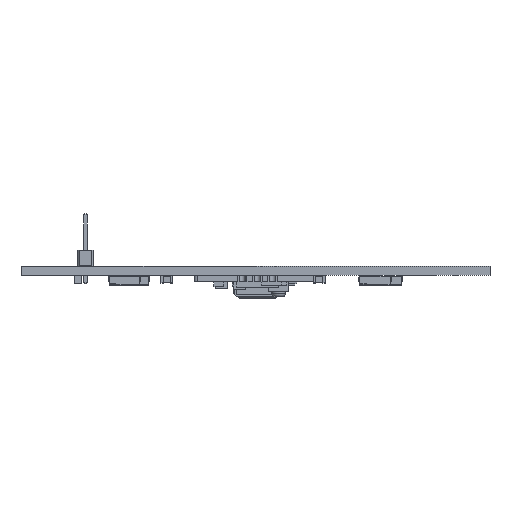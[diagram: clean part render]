
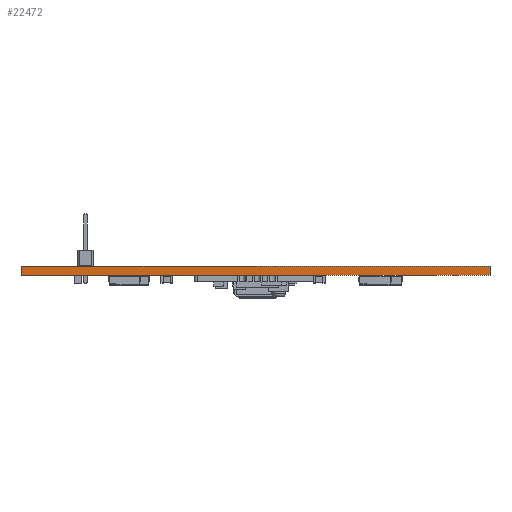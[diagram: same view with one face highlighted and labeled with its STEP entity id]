
A CAD part, front view. The second image highlights one B-rep face of the part: STEP entity #22472.
In plain terms, the highlighted planar face has unit normal (0, -1, 0).
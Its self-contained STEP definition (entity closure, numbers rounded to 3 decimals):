
#22472 = ADVANCED_FACE('',(#22473),#22507,.T.);
#22473 = FACE_BOUND('',#22474,.T.);
#22474 = EDGE_LOOP('',(#22475,#22485,#22493,#22501));
#22475 = ORIENTED_EDGE('',*,*,#22476,.T.);
#22476 = EDGE_CURVE('',#22477,#22479,#22481,.T.);
#22477 = VERTEX_POINT('',#22478);
#22478 = CARTESIAN_POINT('',(190.,-152.5,0.));
#22479 = VERTEX_POINT('',#22480);
#22480 = CARTESIAN_POINT('',(190.,-152.5,1.51));
#22481 = LINE('',#22482,#22483);
#22482 = CARTESIAN_POINT('',(190.,-152.5,0.));
#22483 = VECTOR('',#22484,1.);
#22484 = DIRECTION('',(0.,0.,1.));
#22485 = ORIENTED_EDGE('',*,*,#22486,.T.);
#22486 = EDGE_CURVE('',#22479,#22487,#22489,.T.);
#22487 = VERTEX_POINT('',#22488);
#22488 = CARTESIAN_POINT('',(112.5,-152.5,1.51));
#22489 = LINE('',#22490,#22491);
#22490 = CARTESIAN_POINT('',(190.,-152.5,1.51));
#22491 = VECTOR('',#22492,1.);
#22492 = DIRECTION('',(-1.,0.,0.));
#22493 = ORIENTED_EDGE('',*,*,#22494,.F.);
#22494 = EDGE_CURVE('',#22495,#22487,#22497,.T.);
#22495 = VERTEX_POINT('',#22496);
#22496 = CARTESIAN_POINT('',(112.5,-152.5,0.));
#22497 = LINE('',#22498,#22499);
#22498 = CARTESIAN_POINT('',(112.5,-152.5,0.));
#22499 = VECTOR('',#22500,1.);
#22500 = DIRECTION('',(0.,0.,1.));
#22501 = ORIENTED_EDGE('',*,*,#22502,.F.);
#22502 = EDGE_CURVE('',#22477,#22495,#22503,.T.);
#22503 = LINE('',#22504,#22505);
#22504 = CARTESIAN_POINT('',(190.,-152.5,0.));
#22505 = VECTOR('',#22506,1.);
#22506 = DIRECTION('',(-1.,0.,0.));
#22507 = PLANE('',#22508);
#22508 = AXIS2_PLACEMENT_3D('',#22509,#22510,#22511);
#22509 = CARTESIAN_POINT('',(190.,-152.5,0.));
#22510 = DIRECTION('',(0.,-1.,0.));
#22511 = DIRECTION('',(-1.,0.,0.));
